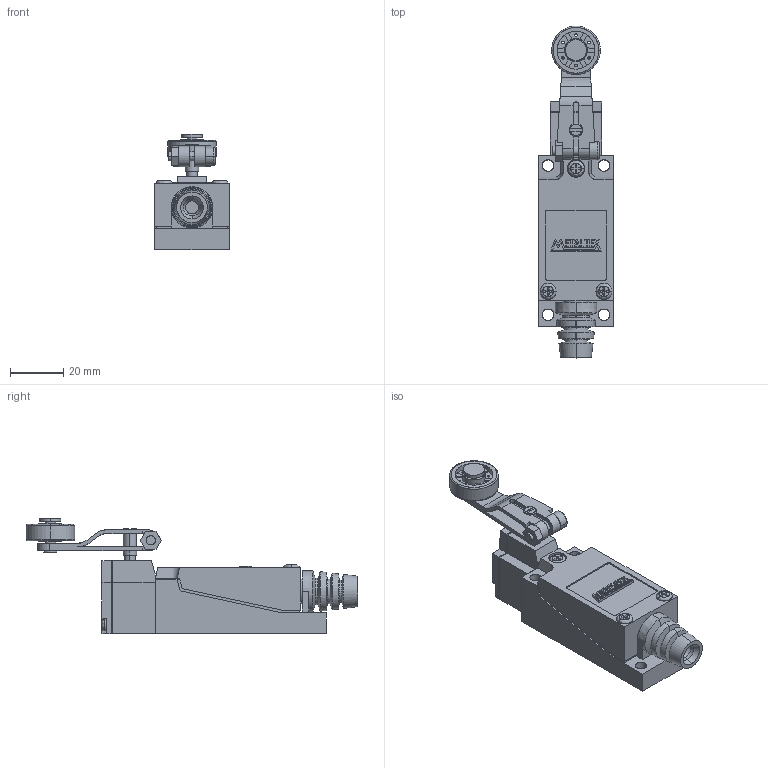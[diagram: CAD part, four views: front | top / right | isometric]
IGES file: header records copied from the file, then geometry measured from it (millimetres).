
Start section: SolidWorks IGES file using analytic representation for surfaces
Global section: file name: D:\X - Arquivos\PROEX\Empresas\P11 - METALTEX\01 - Produtos\IGES\4ª remessa\6ª etapa\FM8104.IGS; native system: SolidWorks 2012; preprocessor: SolidWorks 2012; author: Usuario; date: 180620.132139; units: millimetre
Bounding box: 28 x 124.64 x 43.3 mm (x, y, z)
Surface area: 16956.1 mm2 (no closed solid volume)
Topology: 0 solids, 0 shells, 512 faces, 5194 edges, 5194 vertices
Faces by surface type: bspline 395, revolution 117
